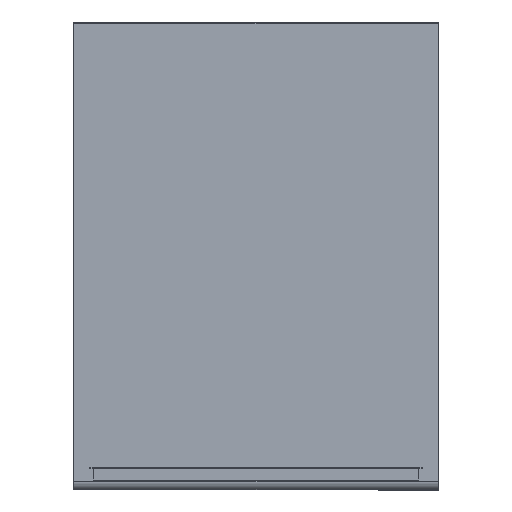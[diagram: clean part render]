
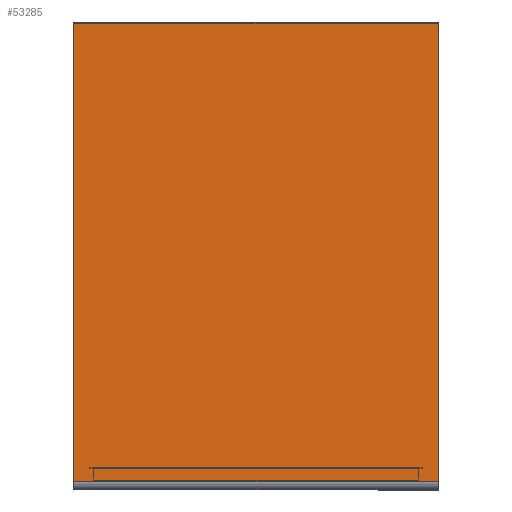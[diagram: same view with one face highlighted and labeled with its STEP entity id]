
A CAD part, top view. The second image highlights one B-rep face of the part: STEP entity #53285.
In plain terms, the highlighted planar face has unit normal (0, 0, 1).
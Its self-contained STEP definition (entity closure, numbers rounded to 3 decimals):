
#1385=PLANE('',#56871);
#12184=ORIENTED_EDGE('',*,*,#22698,.F.);
#12185=ORIENTED_EDGE('',*,*,#22699,.T.);
#12186=ORIENTED_EDGE('',*,*,#22700,.T.);
#12187=ORIENTED_EDGE('',*,*,#22701,.T.);
#22698=EDGE_CURVE('',#28696,#28705,#34416,.T.);
#22699=EDGE_CURVE('',#28696,#28702,#34417,.T.);
#22700=EDGE_CURVE('',#28702,#28706,#34418,.T.);
#22701=EDGE_CURVE('',#28706,#28705,#34419,.T.);
#28696=VERTEX_POINT('',#81365);
#28702=VERTEX_POINT('',#81378);
#28705=VERTEX_POINT('',#81386);
#28706=VERTEX_POINT('',#81389);
#34416=LINE('',#81385,#40432);
#34417=LINE('',#81387,#40433);
#34418=LINE('',#81388,#40434);
#34419=LINE('',#81390,#40435);
#40432=VECTOR('',#66690,1000.);
#40433=VECTOR('',#66691,1000.);
#40434=VECTOR('',#66692,1000.);
#40435=VECTOR('',#66693,1000.);
#45134=EDGE_LOOP('',(#12184,#12185,#12186,#12187));
#49294=FACE_BOUND('',#45134,.T.);
#53285=ADVANCED_FACE('',(#49294),#1385,.T.);
#56871=AXIS2_PLACEMENT_3D('',#81384,#66688,#66689);
#66688=DIRECTION('',(0.,0.,1.));
#66689=DIRECTION('',(1.,0.,0.));
#66690=DIRECTION('',(1.,0.,0.));
#66691=DIRECTION('',(0.,-1.,0.));
#66692=DIRECTION('',(1.,0.,0.));
#66693=DIRECTION('',(0.,1.,0.));
#81365=CARTESIAN_POINT('',(-231.798,291.148,21.));
#81378=CARTESIAN_POINT('',(-231.798,-291.85,21.));
#81384=CARTESIAN_POINT('',(-232.5,291.85,21.));
#81385=CARTESIAN_POINT('',(-232.5,291.148,21.));
#81386=CARTESIAN_POINT('',(231.798,291.148,21.));
#81387=CARTESIAN_POINT('',(-231.798,291.148,21.));
#81388=CARTESIAN_POINT('',(-232.5,-291.85,21.));
#81389=CARTESIAN_POINT('',(231.798,-291.85,21.));
#81390=CARTESIAN_POINT('',(231.798,-291.85,21.));
